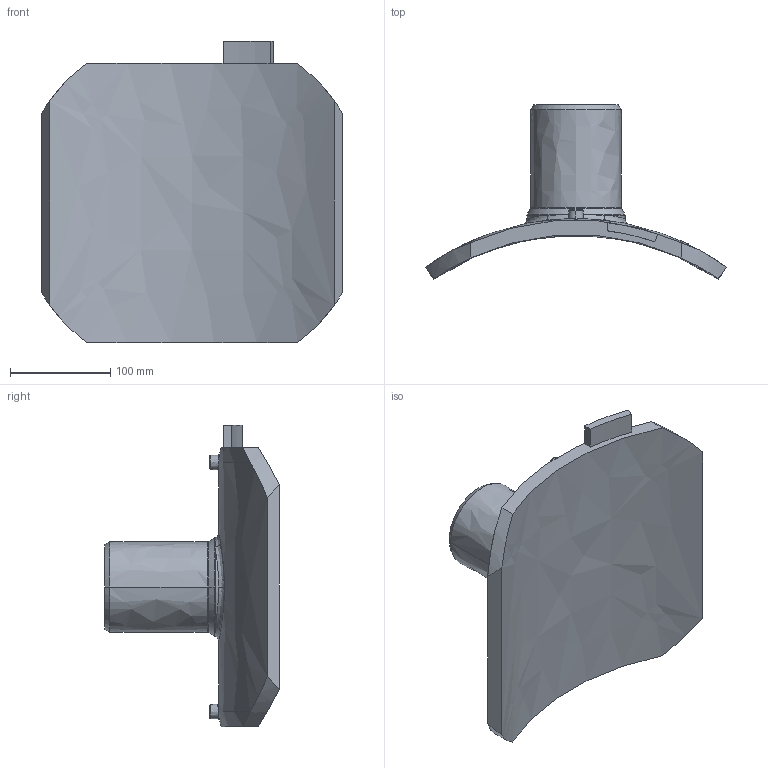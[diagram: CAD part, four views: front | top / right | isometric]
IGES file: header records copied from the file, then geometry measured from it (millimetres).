
Start section:  PTC IGES file: sa-uni_d500_90_01.igs
Global section: file name: sa-uni_d500_90_01.igs; native system: Pro/ENGINEER by Parametric Technology Corporation; preprocessor: 2011490; author: MikulicP; organization: Unknown; date: 20170208.134900; units: millimetre
Bounding box: 300.53 x 174.32 x 301 mm (x, y, z)
Surface area: 250784.9 mm2 (no closed solid volume)
Topology: 0 solids, 0 shells, 216 faces, 1070 edges, 1068 vertices
Faces by surface type: bspline 216
